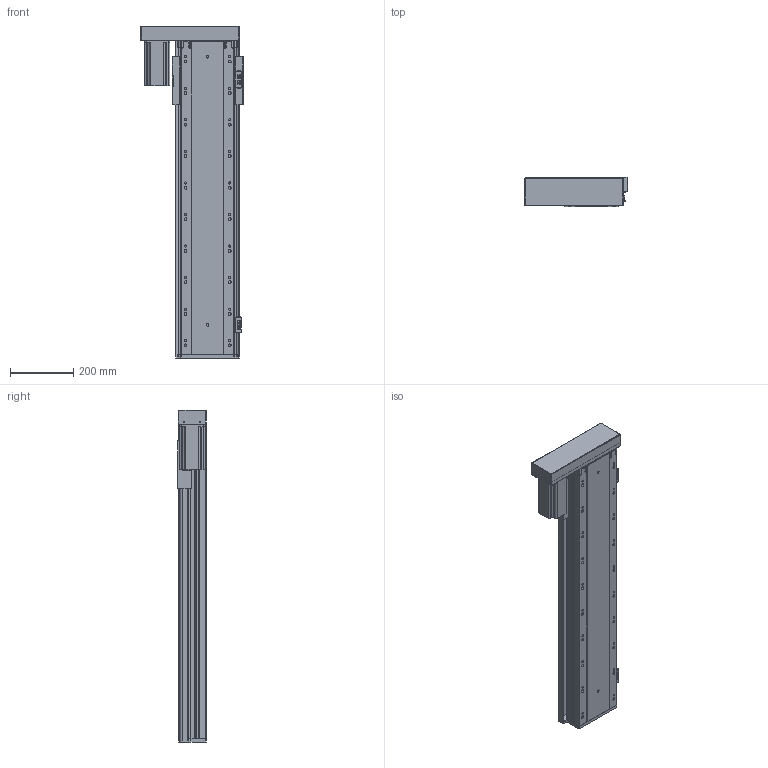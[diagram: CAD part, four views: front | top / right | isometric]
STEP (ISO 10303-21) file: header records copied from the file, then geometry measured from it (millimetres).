
FILE_DESCRIPTION (( 'STEP AP203' ), '1' );
FILE_NAME ('RY170FB-L2020-300-LK.SLDASM_750.step', '2021-02-23T03:02:45', ( '盈信电脑' ), ( '东莞市道滘镇水果街19号' ), 'SwSTEP 2.0', 'SolidWorks 2012', '' );
FILE_SCHEMA (( 'CONFIG_CONTROL_DESIGN' ));
Length unit declared in the file: millimetre
Products named in the file (16): RY170FB-L2020-300-LK.SLDASM_750; RY170FB-酘衵殏萇儂欶750W; RY140FB-674嫖萇覜茼え; RY170FB-左右折电机安装板750W; RY140-674嫖萇耀輸; RY140直线电机感应器674光电安装座; RY170FB-綴裔啣; 覜茼ん674; RY170FB-300蛌殏奻裔-LK_750; 怢湛750W萇儂ㄗ80遺ㄘ; 滅袉蝶18-10; RY170FB-铝滑块(25丝杆）; RY170FB-转折电机端支撑座(7002); 滅袉蝶18-28; RY170FB-300蛌殏倰第菁釱-LK_750
Assembly tree (18 placements, depth 3):
  RY170FB-L2020-300-LK.SLDASM_750
    RY170FB-300蛌殏倰第菁釱-LK_750
    滅袉蝶18-28
    滅袉蝶18-10
    RY170FB-转折电机端支撑座(7002)
    怢湛750W萇儂ㄗ80遺ㄘ
    RY170FB-铝滑块(25丝杆）
    RY170FB-綴裔啣
    RY170FB-300蛌殏奻裔-LK_750
    RY140-674嫖萇耀輸
      覜茼ん674  x2
      RY140直线电机感应器674光电安装座
    RY140-674嫖萇耀輸
      覜茼ん674
      RY140直线电机感应器674光电安装座
    RY140FB-674嫖萇覜茼え
    RY170FB-左右折电机安装板750W
    RY170FB-酘衵殏萇儂欶750W
Bounding box: 323.95 x 90.5 x 1052.7 mm (x, y, z)
Volume: 6759787.6 mm3; surface area: 1954006.2 mm2
Topology: 16 solids, 16 shells, 1661 faces, 4782 edges, 3042 vertices
Faces by surface type: cylinder 897, plane 596, cone 160, bspline 8
Entity records: 54071 total; most frequent: CARTESIAN_POINT 13471, ORIENTED_EDGE 8296, DIRECTION 7924, EDGE_CURVE 4148, AXIS2_PLACEMENT_3D 2897, VERTEX_POINT 2722, VECTOR 2130, LINE 2130
